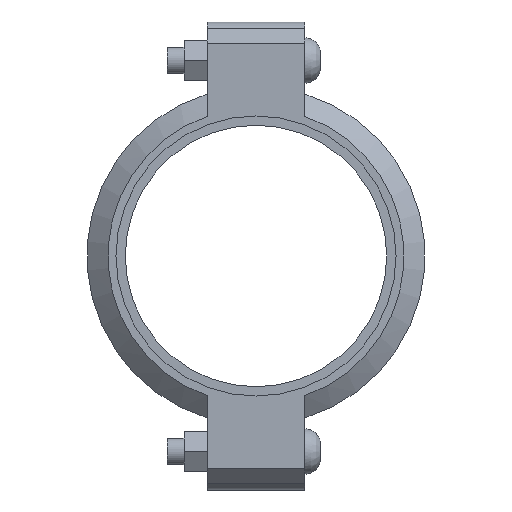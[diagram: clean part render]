
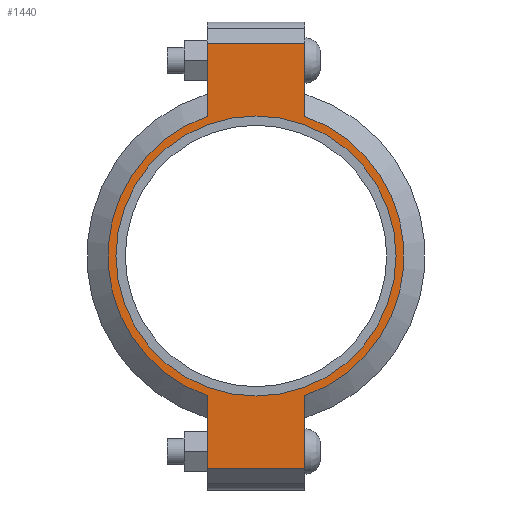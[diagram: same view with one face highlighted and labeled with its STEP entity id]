
A CAD part, left-side view. The second image highlights one B-rep face of the part: STEP entity #1440.
In plain terms, the highlighted planar face has unit normal (-1, 0, 0) as drawn and (0, 0, 1) by its records, which use the part's own axes.
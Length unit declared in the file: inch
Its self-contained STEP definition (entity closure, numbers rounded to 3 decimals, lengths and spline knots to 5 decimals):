
#120=LINE('',#2479,#211);
#128=LINE('',#2515,#219);
#135=LINE('',#2536,#226);
#144=LINE('',#2568,#235);
#145=LINE('',#2572,#236);
#146=LINE('',#2574,#237);
#211=VECTOR('',#2009,0.3937);
#219=VECTOR('',#2025,0.3937);
#226=VECTOR('',#2044,0.3937);
#235=VECTOR('',#2069,0.3937);
#236=VECTOR('',#2074,0.3937);
#237=VECTOR('',#2075,0.3937);
#289=FACE_BOUND('',#449,.T.);
#353=FACE_OUTER_BOUND('',#448,.T.);
#448=EDGE_LOOP('',(#1175,#1176,#1177,#1178,#1179,#1180,#1181,#1182));
#449=EDGE_LOOP('',(#1183));
#546=CIRCLE('',#1683,3.5);
#547=CIRCLE('',#1684,3.5);
#548=CIRCLE('',#1685,3.3125);
#651=VERTEX_POINT('',#2476);
#652=VERTEX_POINT('',#2478);
#663=VERTEX_POINT('',#2510);
#664=VERTEX_POINT('',#2514);
#671=VERTEX_POINT('',#2533);
#672=VERTEX_POINT('',#2535);
#682=VERTEX_POINT('',#2571);
#683=VERTEX_POINT('',#2573);
#684=VERTEX_POINT('',#2576);
#815=EDGE_CURVE('',#652,#651,#120,.T.);
#829=EDGE_CURVE('',#664,#663,#128,.T.);
#839=EDGE_CURVE('',#672,#671,#135,.T.);
#854=EDGE_CURVE('',#664,#651,#144,.T.);
#855=EDGE_CURVE('',#663,#672,#546,.T.);
#856=EDGE_CURVE('',#682,#671,#145,.T.);
#857=EDGE_CURVE('',#682,#683,#146,.T.);
#858=EDGE_CURVE('',#683,#652,#547,.T.);
#859=EDGE_CURVE('',#684,#684,#548,.T.);
#1175=ORIENTED_EDGE('',*,*,#854,.F.);
#1176=ORIENTED_EDGE('',*,*,#829,.T.);
#1177=ORIENTED_EDGE('',*,*,#855,.T.);
#1178=ORIENTED_EDGE('',*,*,#839,.T.);
#1179=ORIENTED_EDGE('',*,*,#856,.F.);
#1180=ORIENTED_EDGE('',*,*,#857,.T.);
#1181=ORIENTED_EDGE('',*,*,#858,.T.);
#1182=ORIENTED_EDGE('',*,*,#815,.T.);
#1183=ORIENTED_EDGE('',*,*,#859,.T.);
#1294=PLANE('',#1682);
#1440=ADVANCED_FACE('',(#353,#289),#1294,.T.);
#1682=AXIS2_PLACEMENT_3D('',#2569,#2070,#2071);
#1683=AXIS2_PLACEMENT_3D('',#2570,#2072,#2073);
#1684=AXIS2_PLACEMENT_3D('',#2575,#2076,#2077);
#1685=AXIS2_PLACEMENT_3D('',#2577,#2078,#2079);
#2009=DIRECTION('',(-1.,0.,0.));
#2025=DIRECTION('',(1.,0.,0.));
#2044=DIRECTION('',(1.,0.,0.));
#2069=DIRECTION('',(0.,1.,0.));
#2070=DIRECTION('center_axis',(0.,0.,1.));
#2071=DIRECTION('ref_axis',(1.,0.,0.));
#2072=DIRECTION('center_axis',(0.,0.,1.));
#2073=DIRECTION('ref_axis',(-1.,0.,0.));
#2074=DIRECTION('',(0.,-1.,0.));
#2075=DIRECTION('',(-1.,0.,0.));
#2076=DIRECTION('center_axis',(0.,0.,1.));
#2077=DIRECTION('ref_axis',(-1.,0.,0.));
#2078=DIRECTION('center_axis',(0.,0.,-1.));
#2079=DIRECTION('ref_axis',(-1.,0.,0.));
#2476=CARTESIAN_POINT('',(-5.035,1.156,1.065));
#2478=CARTESIAN_POINT('',(-3.30358,1.156,1.065));
#2479=CARTESIAN_POINT('',(-5.535,1.156,1.065));
#2510=CARTESIAN_POINT('',(-3.30358,-1.156,1.065));
#2514=CARTESIAN_POINT('',(-5.035,-1.156,1.065));
#2515=CARTESIAN_POINT('',(5.535,-1.156,1.065));
#2533=CARTESIAN_POINT('',(5.035,-1.156,1.065));
#2535=CARTESIAN_POINT('',(3.30358,-1.156,1.065));
#2536=CARTESIAN_POINT('',(5.535,-1.156,1.065));
#2568=CARTESIAN_POINT('',(-5.035,0.578,1.065));
#2569=CARTESIAN_POINT('Origin',(0.,0.,1.065));
#2570=CARTESIAN_POINT('Origin',(0.,0.,1.065));
#2571=CARTESIAN_POINT('',(5.035,1.156,1.065));
#2572=CARTESIAN_POINT('',(5.035,-0.578,1.065));
#2573=CARTESIAN_POINT('',(3.30358,1.156,1.065));
#2574=CARTESIAN_POINT('',(-5.535,1.156,1.065));
#2575=CARTESIAN_POINT('Origin',(0.,0.,1.065));
#2576=CARTESIAN_POINT('',(3.3125,0.,1.065));
#2577=CARTESIAN_POINT('Origin',(0.,0.,1.065));
